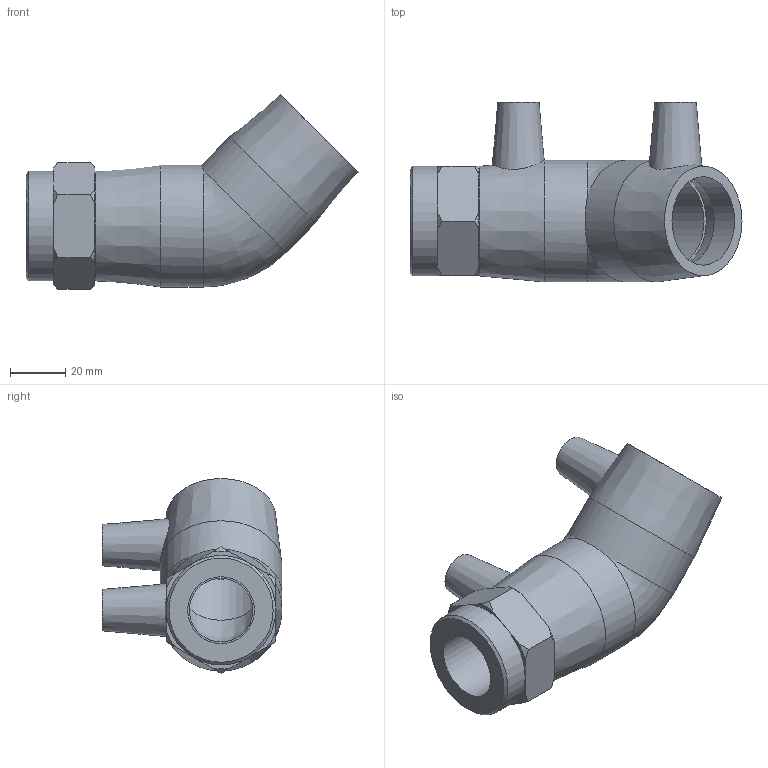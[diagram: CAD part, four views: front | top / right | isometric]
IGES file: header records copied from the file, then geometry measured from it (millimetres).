
Global section: file name: 493604032007.ipt; native system: Autodesk Inventor 2015; preprocessor: unknown; author: KIM; date: 20200202.122452; units: millimetre
Bounding box: 120 x 65 x 70.41 mm (x, y, z)
Volume: 108329.5 mm3; surface area: 33345.4 mm2
Topology: 1 solids, 2 shells, 61 faces, 150 edges, 100 vertices
Faces by surface type: plane 27, cone 17, revolution 9, cylinder 7, bspline 1
Full cylindrical faces by diameter (mm): 4 x2, 32 x2, 39.6 x1, 44 x2
